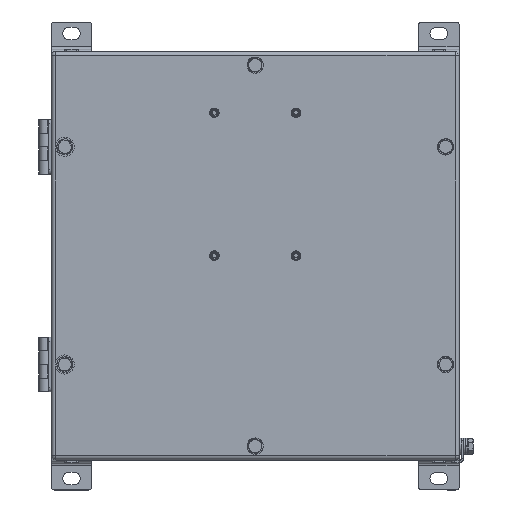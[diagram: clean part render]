
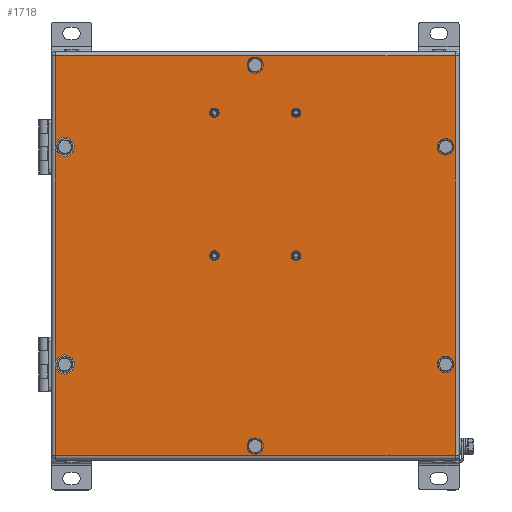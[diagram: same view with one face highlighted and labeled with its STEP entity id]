
A CAD part, top view. The second image highlights one B-rep face of the part: STEP entity #1718.
In plain terms, the highlighted planar face has unit normal (0, 0, 1).
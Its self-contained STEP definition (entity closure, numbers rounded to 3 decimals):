
#1170=CARTESIAN_POINT('',(147.,-147.0,120.));
#1171=VERTEX_POINT('',#1170);
#1237=CARTESIAN_POINT('',(147.0,147.,120.));
#1238=VERTEX_POINT('',#1237);
#1304=CARTESIAN_POINT('',(-147.,-147.0,120.));
#1305=VERTEX_POINT('',#1304);
#1377=CARTESIAN_POINT('',(147.,-147.0,120.));
#1378=DIRECTION('',(-1.0,0.0,0.0));
#1379=VECTOR('',#1378,294.);
#1380=LINE('',#1377,#1379);
#1381=EDGE_CURVE('',#1171,#1305,#1380,.T.);
#1393=CARTESIAN_POINT('',(-147.,147.,120.));
#1394=VERTEX_POINT('',#1393);
#1466=CARTESIAN_POINT('',(-147.,-147.0,120.));
#1467=DIRECTION('',(0.0,1.0,0.0));
#1468=VECTOR('',#1467,294.0);
#1469=LINE('',#1466,#1468);
#1470=EDGE_CURVE('',#1305,#1394,#1469,.T.);
#1488=CARTESIAN_POINT('',(-147.0,147.,120.));
#1489=DIRECTION('',(1.0,0.0,0.0));
#1490=VECTOR('',#1489,294.0);
#1491=LINE('',#1488,#1490);
#1492=EDGE_CURVE('',#1394,#1238,#1491,.T.);
#1510=CARTESIAN_POINT('',(147.0,147.,120.));
#1511=DIRECTION('',(0.0,-1.0,0.0));
#1512=VECTOR('',#1511,294.0);
#1513=LINE('',#1510,#1512);
#1514=EDGE_CURVE('',#1238,#1171,#1513,.T.);
#1597=CARTESIAN_POINT('',(0.,0.,120.));
#1598=DIRECTION('',(0.0,0.0,1.0));
#1599=DIRECTION('',(1.0,0.0,0.0));
#1600=AXIS2_PLACEMENT_3D('',#1597,#1598,#1599);
#1601=PLANE('',#1600);
#1602=ORIENTED_EDGE('',*,*,#1381,.F.);
#1603=ORIENTED_EDGE('',*,*,#1514,.F.);
#1604=ORIENTED_EDGE('',*,*,#1492,.F.);
#1605=ORIENTED_EDGE('',*,*,#1470,.F.);
#1606=EDGE_LOOP('',(#1602,#1603,#1604,#1605));
#1607=FACE_OUTER_BOUND('',#1606,.T.);
#1608=CARTESIAN_POINT('',(-136.25,80.,120.));
#1609=VERTEX_POINT('',#1608);
#1610=CARTESIAN_POINT('',(-140.,80.,120.));
#1611=DIRECTION('',(0.0,0.0,-1.0));
#1612=DIRECTION('',(-1.0,0.0,0.0));
#1613=AXIS2_PLACEMENT_3D('',#1610,#1611,#1612);
#1614=CIRCLE('',#1613,3.75);
#1615=EDGE_CURVE('',#1609,#1609,#1614,.T.);
#1616=ORIENTED_EDGE('',*,*,#1615,.T.);
#1617=EDGE_LOOP('',(#1616));
#1618=FACE_BOUND('',#1617,.T.);
#1619=CARTESIAN_POINT('',(143.75,80.0,120.));
#1620=VERTEX_POINT('',#1619);
#1621=CARTESIAN_POINT('',(140.,80.0,120.));
#1622=DIRECTION('',(0.0,0.0,-1.0));
#1623=DIRECTION('',(-1.0,0.0,0.0));
#1624=AXIS2_PLACEMENT_3D('',#1621,#1622,#1623);
#1625=CIRCLE('',#1624,3.75);
#1626=EDGE_CURVE('',#1620,#1620,#1625,.T.);
#1627=ORIENTED_EDGE('',*,*,#1626,.T.);
#1628=EDGE_LOOP('',(#1627));
#1629=FACE_BOUND('',#1628,.T.);
#1630=CARTESIAN_POINT('',(-136.25,-80.,120.));
#1631=VERTEX_POINT('',#1630);
#1632=CARTESIAN_POINT('',(-140.,-80.,120.));
#1633=DIRECTION('',(0.0,0.0,-1.0));
#1634=DIRECTION('',(-1.0,0.0,0.0));
#1635=AXIS2_PLACEMENT_3D('',#1632,#1633,#1634);
#1636=CIRCLE('',#1635,3.75);
#1637=EDGE_CURVE('',#1631,#1631,#1636,.T.);
#1638=ORIENTED_EDGE('',*,*,#1637,.T.);
#1639=EDGE_LOOP('',(#1638));
#1640=FACE_BOUND('',#1639,.T.);
#1641=CARTESIAN_POINT('',(143.75,-80.0,120.));
#1642=VERTEX_POINT('',#1641);
#1643=CARTESIAN_POINT('',(140.,-80.0,120.));
#1644=DIRECTION('',(0.0,0.0,-1.0));
#1645=DIRECTION('',(-1.0,0.0,0.0));
#1646=AXIS2_PLACEMENT_3D('',#1643,#1644,#1645);
#1647=CIRCLE('',#1646,3.75);
#1648=EDGE_CURVE('',#1642,#1642,#1647,.T.);
#1649=ORIENTED_EDGE('',*,*,#1648,.T.);
#1650=EDGE_LOOP('',(#1649));
#1651=FACE_BOUND('',#1650,.T.);
#1652=CARTESIAN_POINT('',(3.75,140.,120.));
#1653=VERTEX_POINT('',#1652);
#1654=CARTESIAN_POINT('',(0.,140.,120.));
#1655=DIRECTION('',(0.0,0.0,-1.0));
#1656=DIRECTION('',(-1.0,0.0,0.0));
#1657=AXIS2_PLACEMENT_3D('',#1654,#1655,#1656);
#1658=CIRCLE('',#1657,3.75);
#1659=EDGE_CURVE('',#1653,#1653,#1658,.T.);
#1660=ORIENTED_EDGE('',*,*,#1659,.T.);
#1661=EDGE_LOOP('',(#1660));
#1662=FACE_BOUND('',#1661,.T.);
#1663=CARTESIAN_POINT('',(3.75,-140.,120.));
#1664=VERTEX_POINT('',#1663);
#1665=CARTESIAN_POINT('',(0.,-140.,120.));
#1666=DIRECTION('',(0.0,0.0,-1.0));
#1667=DIRECTION('',(-1.0,0.0,0.0));
#1668=AXIS2_PLACEMENT_3D('',#1665,#1666,#1667);
#1669=CIRCLE('',#1668,3.75);
#1670=EDGE_CURVE('',#1664,#1664,#1669,.T.);
#1671=ORIENTED_EDGE('',*,*,#1670,.T.);
#1672=EDGE_LOOP('',(#1671));
#1673=FACE_BOUND('',#1672,.T.);
#1674=CARTESIAN_POINT('',(33.05,105.,120.));
#1675=VERTEX_POINT('',#1674);
#1676=CARTESIAN_POINT('',(30.,105.,120.));
#1677=DIRECTION('',(0.0,0.0,-1.0));
#1678=DIRECTION('',(-1.0,0.0,0.0));
#1679=AXIS2_PLACEMENT_3D('',#1676,#1677,#1678);
#1680=CIRCLE('',#1679,3.05);
#1681=EDGE_CURVE('',#1675,#1675,#1680,.T.);
#1682=ORIENTED_EDGE('',*,*,#1681,.T.);
#1683=EDGE_LOOP('',(#1682));
#1684=FACE_BOUND('',#1683,.T.);
#1685=CARTESIAN_POINT('',(-26.95,105.,120.));
#1686=VERTEX_POINT('',#1685);
#1687=CARTESIAN_POINT('',(-30.,105.,120.));
#1688=DIRECTION('',(0.0,0.0,-1.0));
#1689=DIRECTION('',(-1.0,0.0,0.0));
#1690=AXIS2_PLACEMENT_3D('',#1687,#1688,#1689);
#1691=CIRCLE('',#1690,3.05);
#1692=EDGE_CURVE('',#1686,#1686,#1691,.T.);
#1693=ORIENTED_EDGE('',*,*,#1692,.T.);
#1694=EDGE_LOOP('',(#1693));
#1695=FACE_BOUND('',#1694,.T.);
#1696=CARTESIAN_POINT('',(-26.95,0.,120.));
#1697=VERTEX_POINT('',#1696);
#1698=CARTESIAN_POINT('',(-30.,0.,120.));
#1699=DIRECTION('',(0.0,0.0,-1.0));
#1700=DIRECTION('',(-1.0,0.0,0.0));
#1701=AXIS2_PLACEMENT_3D('',#1698,#1699,#1700);
#1702=CIRCLE('',#1701,3.05);
#1703=EDGE_CURVE('',#1697,#1697,#1702,.T.);
#1704=ORIENTED_EDGE('',*,*,#1703,.T.);
#1705=EDGE_LOOP('',(#1704));
#1706=FACE_BOUND('',#1705,.T.);
#1707=CARTESIAN_POINT('',(33.05,0.,120.));
#1708=VERTEX_POINT('',#1707);
#1709=CARTESIAN_POINT('',(30.,0.,120.));
#1710=DIRECTION('',(0.0,0.0,-1.0));
#1711=DIRECTION('',(-1.0,0.0,0.0));
#1712=AXIS2_PLACEMENT_3D('',#1709,#1710,#1711);
#1713=CIRCLE('',#1712,3.05);
#1714=EDGE_CURVE('',#1708,#1708,#1713,.T.);
#1715=ORIENTED_EDGE('',*,*,#1714,.T.);
#1716=EDGE_LOOP('',(#1715));
#1717=FACE_BOUND('',#1716,.T.);
#1718=ADVANCED_FACE('',(#1607,#1618,#1629,#1640,#1651,#1662,#1673,#1684,#1695,#1706,#1717),#1601,.T.);
